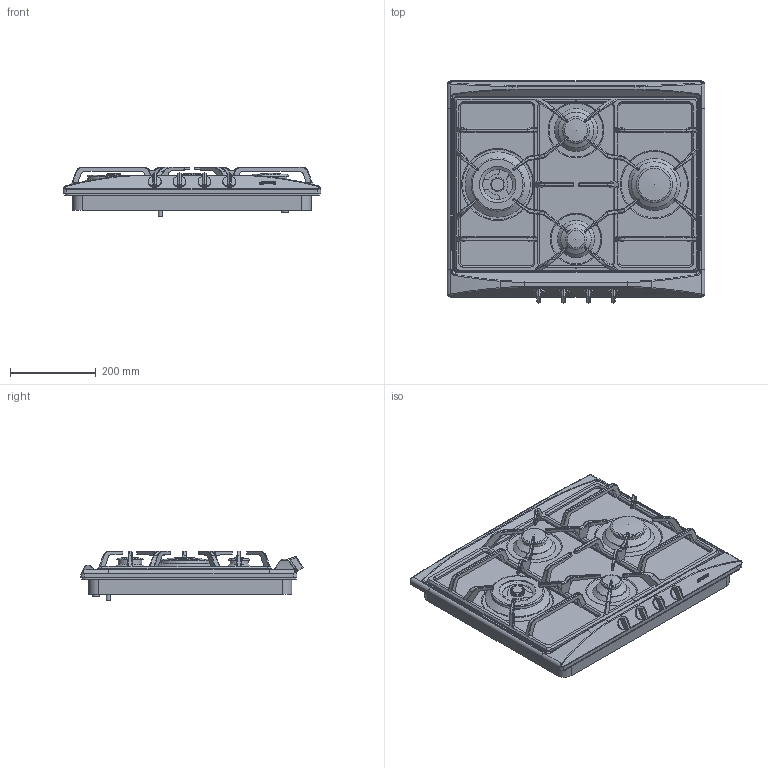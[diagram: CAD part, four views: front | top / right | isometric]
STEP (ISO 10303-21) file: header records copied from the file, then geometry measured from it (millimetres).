
FILE_DESCRIPTION(/* description */ (''),/* implementation_level */ '2;1');
FILE_NAME(/* name */ 'piano sr264xgh.stp',/* time_stamp */ '2018-10-09T15:52:53+02:00',/* author */ (''),/* organization */ (''),/* preprocessor_version */ 'ST-DEVELOPER v16',/* originating_system */ 'SIEMENS PLM Software NX 11.0',/* authorisation */ '');
FILE_SCHEMA (('AUTOMOTIVE_DESIGN { 1 0 10303 214 3 1 1 1 }'));
Length unit declared in the file: millimetre
Products named in the file (1): gobb8BCC11FBblfm
Bounding box: 600 x 517.69 x 116.07 mm (x, y, z)
Volume: 16277841.9 mm3; surface area: 1717205.5 mm2
Topology: 28 solids, 28 shells, 1097 faces, 2674 edges, 1654 vertices
Faces by surface type: plane 468, cylinder 387, bspline 132, torus 57, cone 32, extrusion 11, sphere 10
Full cylindrical faces by diameter (mm): 3.37 x6, 10 x13, 14.475 x4, 16 x6, 23 x1, 23.5 x1, 28 x1, 30 x4, 32 x1, 42 x1, 43 x1, 55 x1, 56 x1, 70.5 x1, 77.5 x1, 78.5 x1, 79.5 x1, 83 x1, 85 x1, 89.5 x1, 90 x1, 98.5 x1, 106 x1, 106.5 x1, 111 x1, 113.5 x1, 122 x1, 124 x1, 152 x1
Entity records: 33419 total; most frequent: CARTESIAN_POINT 7866, DIRECTION 5455, ORIENTED_EDGE 5116, EDGE_CURVE 2558, AXIS2_PLACEMENT_3D 2049, VERTEX_POINT 1633, VECTOR 1357, LINE 1346
